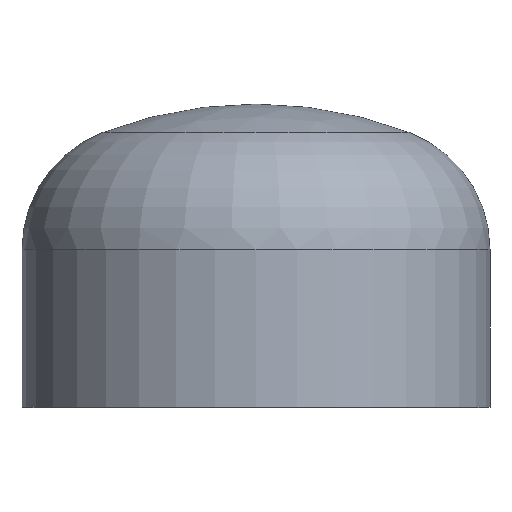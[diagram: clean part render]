
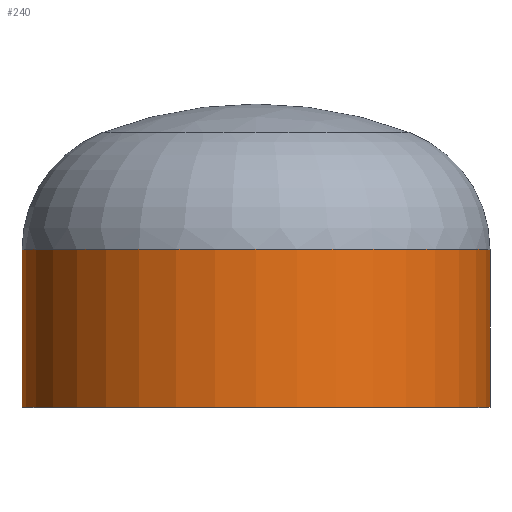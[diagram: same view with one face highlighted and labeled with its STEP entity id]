
A CAD part, top view. The second image highlights one B-rep face of the part: STEP entity #240.
In plain terms, the highlighted cylindrical face has radius 177.8 mm (diameter 355.6 mm), a partial arc.
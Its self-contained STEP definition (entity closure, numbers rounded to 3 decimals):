
#20 = CIRCLE ( 'NONE', #97, 177.8 ) ;
#33 = VERTEX_POINT ( 'NONE', #379 ) ;
#34 = AXIS2_PLACEMENT_3D ( 'NONE', #169, #178, #172 ) ;
#35 = VERTEX_POINT ( 'NONE', #291 ) ;
#45 = AXIS2_PLACEMENT_3D ( 'NONE', #290, #368, #163 ) ;
#61 = DIRECTION ( 'NONE',  ( 0., -1., 0. ) ) ;
#63 = ORIENTED_EDGE ( 'NONE', *, *, #319, .F. ) ;
#68 = VERTEX_POINT ( 'NONE', #243 ) ;
#77 = CARTESIAN_POINT ( 'NONE',  ( -177.8, 0., 0. ) ) ;
#95 = ORIENTED_EDGE ( 'NONE', *, *, #103, .T. ) ;
#97 = AXIS2_PLACEMENT_3D ( 'NONE', #336, #326, #322 ) ;
#103 = EDGE_CURVE ( 'NONE', #35, #105, #20, .T. ) ;
#105 = VERTEX_POINT ( 'NONE', #247 ) ;
#121 = ORIENTED_EDGE ( 'NONE', *, *, #328, .F. ) ;
#134 = VECTOR ( 'NONE', #61, 1000. ) ;
#163 = DIRECTION ( 'NONE',  ( 1., 0., 0. ) ) ;
#169 = CARTESIAN_POINT ( 'NONE',  ( 0., 0., 0. ) ) ;
#171 = ORIENTED_EDGE ( 'NONE', *, *, #195, .T. ) ;
#172 = DIRECTION ( 'NONE',  ( 1., 0., 0. ) ) ;
#177 = LINE ( 'NONE', #189, #241 ) ;
#178 = DIRECTION ( 'NONE',  ( 0., -1., 0. ) ) ;
#186 = FACE_OUTER_BOUND ( 'NONE', #242, .T. ) ;
#189 = CARTESIAN_POINT ( 'NONE',  ( 177.8, 0., 0. ) ) ;
#194 = LINE ( 'NONE', #77, #134 ) ;
#195 = EDGE_CURVE ( 'NONE', #105, #33, #194, .T. ) ;
#228 = DIRECTION ( 'NONE',  ( 0., -1., 0. ) ) ;
#240 = ADVANCED_FACE ( 'NONE', ( #186 ), #377, .T. ) ;
#241 = VECTOR ( 'NONE', #228, 1000. ) ;
#242 = EDGE_LOOP ( 'NONE', ( #95, #171, #121, #63 ) ) ;
#243 = CARTESIAN_POINT ( 'NONE',  ( 177.8, 0., 0. ) ) ;
#247 = CARTESIAN_POINT ( 'NONE',  ( -177.8, 120., 0. ) ) ;
#290 = CARTESIAN_POINT ( 'NONE',  ( 0., 0., 0. ) ) ;
#291 = CARTESIAN_POINT ( 'NONE',  ( 177.8, 120., 0. ) ) ;
#308 = CIRCLE ( 'NONE', #34, 177.8 ) ;
#319 = EDGE_CURVE ( 'NONE', #35, #68, #177, .T. ) ;
#322 = DIRECTION ( 'NONE',  ( 1., 0., 0. ) ) ;
#326 = DIRECTION ( 'NONE',  ( 0., -1., 0. ) ) ;
#328 = EDGE_CURVE ( 'NONE', #68, #33, #308, .T. ) ;
#336 = CARTESIAN_POINT ( 'NONE',  ( 0., 120., 0. ) ) ;
#368 = DIRECTION ( 'NONE',  ( 0., -1., 0. ) ) ;
#377 = CYLINDRICAL_SURFACE ( 'NONE', #45, 177.8 ) ;
#379 = CARTESIAN_POINT ( 'NONE',  ( -177.8, 0., 0. ) ) ;
